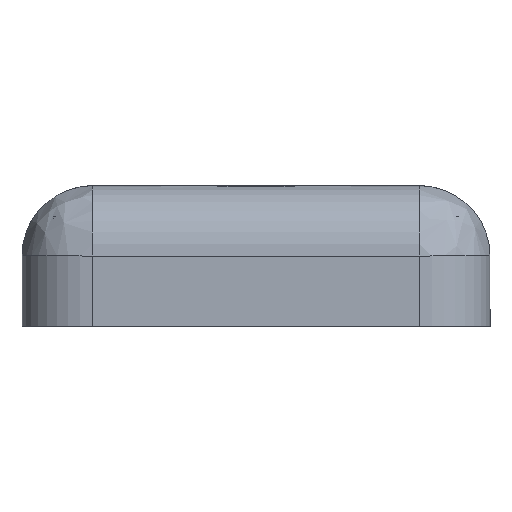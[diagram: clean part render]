
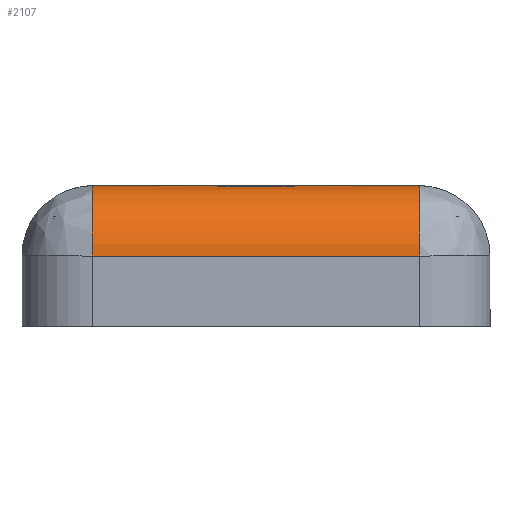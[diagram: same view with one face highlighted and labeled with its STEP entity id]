
A CAD part, left-side view. The second image highlights one B-rep face of the part: STEP entity #2107.
In plain terms, the highlighted cylindrical face has radius 4.5 mm (diameter 9 mm), a partial arc.
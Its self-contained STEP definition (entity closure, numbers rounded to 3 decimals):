
#64 = AXIS2_PLACEMENT_3D ( 'NONE', #2451, #194, #1548 ) ;
#153 = CARTESIAN_POINT ( 'NONE',  ( -25.662, 3.839, 9. ) ) ;
#180 = LINE ( 'NONE', #2176, #860 ) ;
#194 = DIRECTION ( 'NONE',  ( 0., -1., 0. ) ) ;
#219 = CYLINDRICAL_SURFACE ( 'NONE', #64, 4.5 ) ;
#240 = DIRECTION ( 'NONE',  ( 0., 1., 0. ) ) ;
#316 = EDGE_CURVE ( 'NONE', #1921, #1018, #724, .T. ) ;
#339 = CARTESIAN_POINT ( 'NONE',  ( -25.5, 10.5, 9. ) ) ;
#429 = DIRECTION ( 'NONE',  ( 0., 0., -1. ) ) ;
#477 = VERTEX_POINT ( 'NONE', #1930 ) ;
#492 = ORIENTED_EDGE ( 'NONE', *, *, #612, .F. ) ;
#527 = CARTESIAN_POINT ( 'NONE',  ( -25.5, -4.61, 9. ) ) ;
#612 = EDGE_CURVE ( 'NONE', #477, #2403, #2469, .T. ) ;
#724 = LINE ( 'NONE', #1617, #1706 ) ;
#833 = FACE_OUTER_BOUND ( 'NONE', #2431, .T. ) ;
#860 = VECTOR ( 'NONE', #1571, 1000. ) ;
#928 = DIRECTION ( 'NONE',  ( 0., -1., 0. ) ) ;
#1018 = VERTEX_POINT ( 'NONE', #2679 ) ;
#1061 = CARTESIAN_POINT ( 'NONE',  ( -25.944, -1.533, 8.979 ) ) ;
#1072 = AXIS2_PLACEMENT_3D ( 'NONE', #1588, #240, #1823 ) ;
#1075 = EDGE_CURVE ( 'NONE', #1459, #1329, #180, .T. ) ;
#1148 = VECTOR ( 'NONE', #1209, 1000. ) ;
#1209 = DIRECTION ( 'NONE',  ( 0., 1., 0. ) ) ;
#1275 = EDGE_CURVE ( 'NONE', #1329, #477, #2788, .T. ) ;
#1283 = CARTESIAN_POINT ( 'NONE',  ( -25.984, 0.765, 8.974 ) ) ;
#1329 = VERTEX_POINT ( 'NONE', #1563 ) ;
#1360 = CARTESIAN_POINT ( 'NONE',  ( -30., 10.5, 4.5 ) ) ;
#1459 = VERTEX_POINT ( 'NONE', #527 ) ;
#1507 = CARTESIAN_POINT ( 'NONE',  ( -25.783, 3.069, 8.992 ) ) ;
#1548 = DIRECTION ( 'NONE',  ( 0., 0., -1. ) ) ;
#1563 = CARTESIAN_POINT ( 'NONE',  ( -25.5, -10.5, 9. ) ) ;
#1571 = DIRECTION ( 'NONE',  ( 0., -1., 0. ) ) ;
#1584 = B_SPLINE_CURVE_WITH_KNOTS ( 'NONE', 3,
 ( #2370, #1710, #2385, #1061, #2614, #1283, #2814, #1507, #153, #1730 ),
 .UNSPECIFIED., .F., .F.,
 ( 4, 2, 2, 2, 4 ),
 ( 0., 0.25, 0.5, 0.75, 1. ),
 .UNSPECIFIED. ) ;
#1588 = CARTESIAN_POINT ( 'NONE',  ( -25.5, 10.5, 4.5 ) ) ;
#1617 = CARTESIAN_POINT ( 'NONE',  ( -25.5, 0., 9. ) ) ;
#1632 = ORIENTED_EDGE ( 'NONE', *, *, #1275, .F. ) ;
#1705 = ORIENTED_EDGE ( 'NONE', *, *, #2414, .F. ) ;
#1706 = VECTOR ( 'NONE', #2355, 1000. ) ;
#1710 = CARTESIAN_POINT ( 'NONE',  ( -25.662, -3.839, 9. ) ) ;
#1730 = CARTESIAN_POINT ( 'NONE',  ( -25.5, 4.61, 9. ) ) ;
#1823 = DIRECTION ( 'NONE',  ( 0., 0., -1. ) ) ;
#1921 = VERTEX_POINT ( 'NONE', #339 ) ;
#1930 = CARTESIAN_POINT ( 'NONE',  ( -30., -10.5, 4.5 ) ) ;
#1981 = EDGE_CURVE ( 'NONE', #1459, #1018, #1584, .T. ) ;
#2037 = CARTESIAN_POINT ( 'NONE',  ( -25.5, -10.5, 4.5 ) ) ;
#2042 = CIRCLE ( 'NONE', #1072, 4.5 ) ;
#2107 = ADVANCED_FACE ( 'NONE', ( #833 ), #219, .T. ) ;
#2151 = ORIENTED_EDGE ( 'NONE', *, *, #1981, .T. ) ;
#2176 = CARTESIAN_POINT ( 'NONE',  ( -25.5, 0., 9. ) ) ;
#2355 = DIRECTION ( 'NONE',  ( 0., -1., 0. ) ) ;
#2370 = CARTESIAN_POINT ( 'NONE',  ( -25.5, -4.61, 9. ) ) ;
#2385 = CARTESIAN_POINT ( 'NONE',  ( -25.783, -3.069, 8.992 ) ) ;
#2403 = VERTEX_POINT ( 'NONE', #1360 ) ;
#2414 = EDGE_CURVE ( 'NONE', #2403, #1921, #2042, .T. ) ;
#2431 = EDGE_LOOP ( 'NONE', ( #2872, #1705, #492, #1632, #2739, #2151 ) ) ;
#2451 = CARTESIAN_POINT ( 'NONE',  ( -25.5, 10.5, 4.5 ) ) ;
#2469 = LINE ( 'NONE', #2757, #1148 ) ;
#2614 = CARTESIAN_POINT ( 'NONE',  ( -25.984, -0.765, 8.974 ) ) ;
#2679 = CARTESIAN_POINT ( 'NONE',  ( -25.5, 4.61, 9. ) ) ;
#2739 = ORIENTED_EDGE ( 'NONE', *, *, #1075, .F. ) ;
#2757 = CARTESIAN_POINT ( 'NONE',  ( -30., 0., 4.5 ) ) ;
#2788 = CIRCLE ( 'NONE', #2813, 4.5 ) ;
#2813 = AXIS2_PLACEMENT_3D ( 'NONE', #2037, #928, #429 ) ;
#2814 = CARTESIAN_POINT ( 'NONE',  ( -25.944, 1.532, 8.979 ) ) ;
#2872 = ORIENTED_EDGE ( 'NONE', *, *, #316, .F. ) ;
